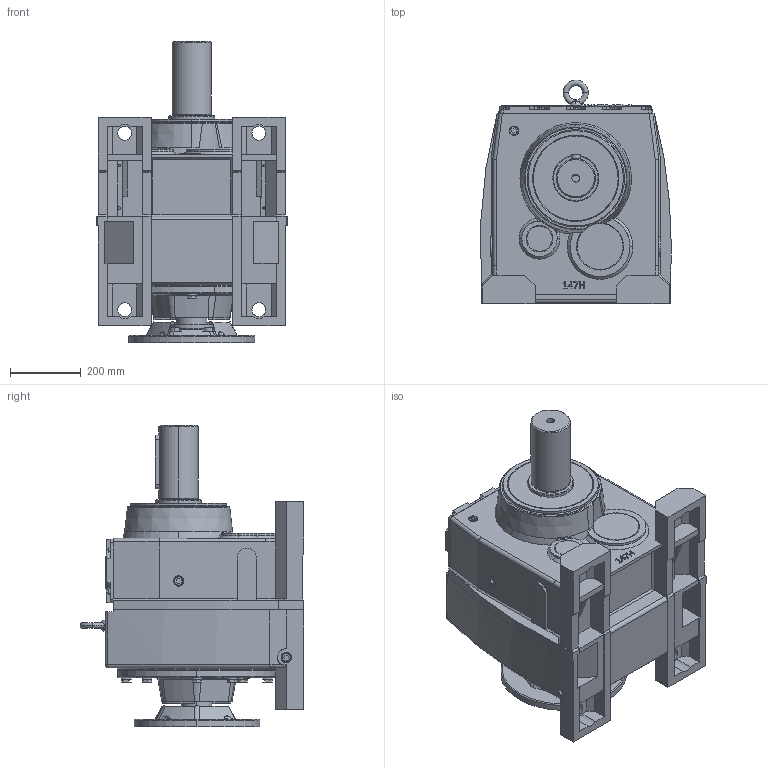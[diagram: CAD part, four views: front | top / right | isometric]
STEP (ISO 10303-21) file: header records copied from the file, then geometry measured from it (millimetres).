
FILE_DESCRIPTION (( 'STEP AP203' ), '1' );
FILE_NAME ('WINL147-324-6TC.STEP', '2013-09-26T10:30:48', ( 'User' ), ( 'Chenta' ), 'SwSTEP 2.0', 'SolidWorks 2011', '' );
FILE_SCHEMA (( 'CONFIG_CONTROL_DESIGN' ));
Length unit declared in the file: millimetre
Products named in the file (1): WINL147-324-6TC
Bounding box: 540.11 x 634 x 853 mm (x, y, z)
Surface area: 2424905.7 mm2 (no closed solid volume)
Topology: 0 solids, 57 shells, 991 faces, 2993 edges, 2042 vertices
Faces by surface type: plane 568, cylinder 182, cone 167, bspline 48, torus 24, sphere 2
Entity records: 38211 total; most frequent: CARTESIAN_POINT 12058, ORIENTED_EDGE 5201, DIRECTION 5161, EDGE_CURVE 2990, VERTEX_POINT 2042, VECTOR 1801, LINE 1801, AXIS2_PLACEMENT_3D 1680
